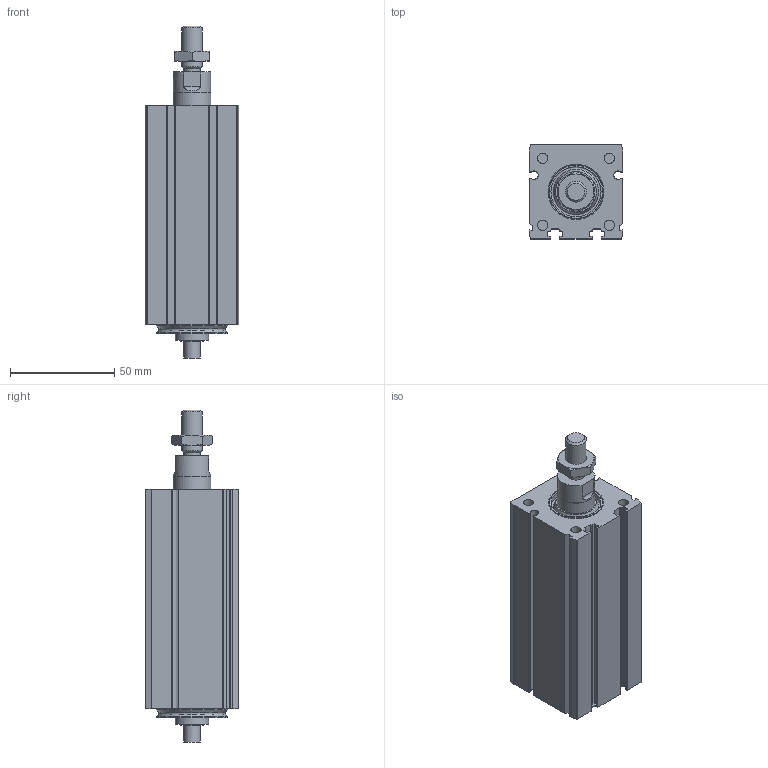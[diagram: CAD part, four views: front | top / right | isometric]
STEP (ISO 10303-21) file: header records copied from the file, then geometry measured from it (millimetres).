
FILE_DESCRIPTION(/* description */ ('STEP AP214'),/* implementation_level */ '2;1');
FILE_NAME(/* name */ 'MCE 45 1003 25 0(0)',/* time_stamp */ '2023-10-05T14:22:54+02:00',/* author */ ('License CC BY-ND 4.0'),/* organization */ ('CADENAS'),/* preprocessor_version */ 'ST-DEVELOPER v19.3',/* originating_system */ 'PARTsolutions',/* authorisation */ ' ');
FILE_SCHEMA (('AUTOMOTIVE_DESIGN {1 0 10303 214 3 1 1}'));
Length unit declared in the file: millimetre
Products named in the file (4): MCE 45 1003 25  0(0); 45_nut; 45(250)_rod; 45(25)_msc
Assembly tree (3 placements, depth 2):
  MCE 45 1003 25  0(0)
    45_nut
    45(250)_rod
    45(25)_msc
Bounding box: 45 x 45 x 159 mm (x, y, z)
Volume: 197181.1 mm3; surface area: 51723.4 mm2
Topology: 3 solids, 3 shells, 212 faces, 525 edges, 341 vertices
Faces by surface type: plane 92, cylinder 92, cone 23, torus 5
Full cylindrical faces by diameter (mm): 3.242 x4, 4.917 x4, 8 x2, 8.376 x1, 10 x1, 16 x1, 17.8 x1, 18 x2, 24 x1, 24.5 x1, 32.5 x2, 34 x2
Entity records: 6269 total; most frequent: CARTESIAN_POINT 1132, DIRECTION 1108, ORIENTED_EDGE 970, EDGE_CURVE 485, AXIS2_PLACEMENT_3D 433, VERTEX_POINT 339, EDGE_LOOP 274, FACE_BOUND 274
